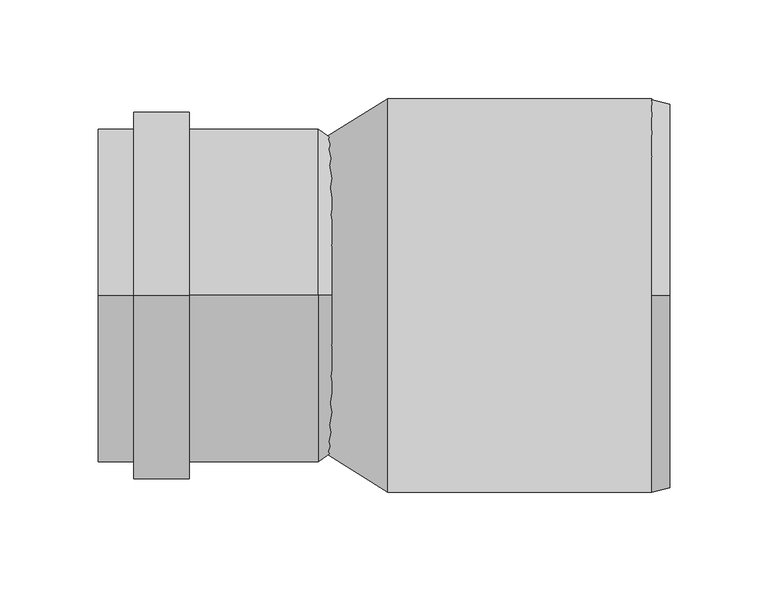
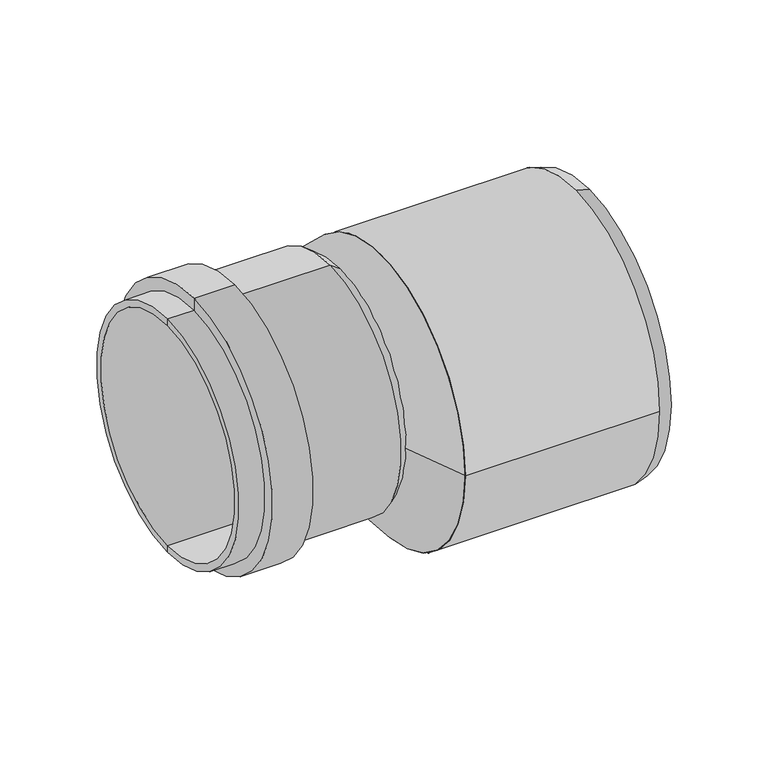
"""IFC4 building model written with IfcOpenShell, lengths in millimetres: pipe fitting geometry, OSMA_KG2000_PPKGR : Redukce nesouosá dlouhá."""

from ifc_helpers import new_model, si_unit, frame, origin, place, context, project, spatial, polyline, circle_curve, source, transform, mapped, element, save
from ifc_brep_helpers import plane_surface, cylinder_surface, revolved_surface, spline_surface, advanced_brep


def pipe_fitting_3f897d09(model_context):
    return source(origin(), model_context, "Body", "AdvancedBrep", [
        advanced_brep(
        [(-3.5, 0.0, 80.0), (-3.5, 0.0, -80.0), (-115.0, 0.0, -80.0), (-115.0, 0.0, 80.0), (-69.0, 0.0, 84.9), (-69.0, 0.0, -84.9), (-3.5, 0.0, -84.9), (-3.5, 0.0, 84.9), (-69.0, 0.0, -93.5), (-69.0, 0.0, 93.5), (-97.0, 0.0, -93.5), (-97.0, 0.0, 93.5), (-97.0, 0.0, -84.9), (-97.0, 0.0, 84.9), (-115.0, 0.0, -84.9), (-115.0, 0.0, 84.9), (3.5, 0.0, 75.1), (3.5, 0.0, -75.1), (3.5, 0.0, 80.0), (3.5, 0.0, -80.0)],
        [
            (0, 1, circle_curve(frame((-3.5, 0.0, 0.0), z_axis=(1.0, 0.0, 0.0), x_axis=(0.0, 0.0, -1.0)), 80.0)),
            (1, 2),
            (2, 3, circle_curve(frame((-115.0, 0.0, 0.0), z_axis=(-1.0, 0.0, 0.0), x_axis=(0.0, 0.0, -1.0)), 80.0)),
            (3, 0),
            (1, 0, circle_curve(frame((-3.5, 0.0, 0.0), z_axis=(1.0, 0.0, 0.0), x_axis=(0.0, 0.0, -1.0)), 80.0)),
            (3, 2, circle_curve(frame((-115.0, 0.0, 0.0), z_axis=(-1.0, 0.0, 0.0), x_axis=(0.0, 0.0, -1.0)), 80.0)),
            (4, 5, circle_curve(frame((-69.0, 0.0, 0.0), z_axis=(1.0, 0.0, 0.0), x_axis=(0.0, 0.0, -1.0)), 84.9)),
            (5, 6),
            (6, 7, circle_curve(frame((-3.5, 0.0, 0.0), z_axis=(-1.0, 0.0, 0.0), x_axis=(0.0, 0.0, -1.0)), 84.9)),
            (7, 4),
            (8, 9, circle_curve(frame((-69.0, 0.0, 0.0), z_axis=(1.0, 0.0, 0.0), x_axis=(0.0, 0.0, -1.0)), 93.5)),
            (9, 4),
            (4, 5, circle_curve(frame((-69.0, 0.0, 0.0), z_axis=(-1.0, 0.0, 0.0), x_axis=(0.0, 0.0, -1.0)), 84.9)),
            (5, 8),
            (10, 11, circle_curve(frame((-97.0, 0.0, 0.0), z_axis=(1.0, 0.0, 0.0), x_axis=(0.0, 0.0, -1.0)), 93.5)),
            (11, 9),
            (8, 10),
            (12, 13, circle_curve(frame((-97.0, 0.0, 0.0), z_axis=(1.0, 0.0, 0.0), x_axis=(0.0, 0.0, -1.0)), 84.9)),
            (13, 11),
            (10, 12),
            (14, 15, circle_curve(frame((-115.0, 0.0, 0.0), z_axis=(1.0, 0.0, 0.0), x_axis=(0.0, 0.0, -1.0)), 84.9)),
            (15, 13),
            (12, 14),
            (16, 17, circle_curve(frame((3.5, 0.0, 0.0), z_axis=(1.0, 0.0, 0.0), x_axis=(0.0, 0.0, -1.0)), 75.1)),
            (17, 1),
            (0, 16),
            (17, 16, circle_curve(frame((3.5, 0.0, 0.0), z_axis=(1.0, 0.0, 0.0), x_axis=(0.0, 0.0, -1.0)), 75.1)),
            (18, 19, circle_curve(frame((3.5, 0.0, 0.0), z_axis=(1.0, 0.0, 0.0), x_axis=(0.0, 0.0, -1.0)), 80.0)),
            (19, 17),
            (16, 18),
            (19, 18, circle_curve(frame((3.5, 0.0, 0.0), z_axis=(1.0, 0.0, 0.0), x_axis=(0.0, 0.0, -1.0)), 80.0)),
            (6, 19),
            (18, 7),
            (6, 7, circle_curve(frame((-3.5, 0.0, 0.0), z_axis=(1.0, 0.0, 0.0), x_axis=(0.0, 0.0, -1.0)), 84.9)),
            (9, 8, circle_curve(frame((-69.0, 0.0, 0.0), z_axis=(1.0, 0.0, 0.0), x_axis=(0.0, 0.0, -1.0)), 93.5)),
            (11, 10, circle_curve(frame((-97.0, 0.0, 0.0), z_axis=(1.0, 0.0, 0.0), x_axis=(0.0, 0.0, -1.0)), 93.5)),
            (13, 12, circle_curve(frame((-97.0, 0.0, 0.0), z_axis=(1.0, 0.0, 0.0), x_axis=(0.0, 0.0, -1.0)), 84.9)),
            (15, 14, circle_curve(frame((-115.0, 0.0, 0.0), z_axis=(1.0, 0.0, 0.0), x_axis=(0.0, 0.0, -1.0)), 84.9)),
            (2, 14),
            (15, 3),
        ],
        [
            revolved_surface(polyline([(-115.0, 0.0, -80.0), (-3.5, 0.0, -80.0)]), (-2784.4742198, 0.0, 0.0), (-1.0, 0.0, 0.0)),
            cylinder_surface(frame((-2784.4742198, 0.0, 0.0), z_axis=(-1.0, 0.0, 0.0), x_axis=(0.0, 0.0, -1.0)), 84.9),
            plane_surface(frame((-69.0, 0.0, 0.0), z_axis=(1.0, 0.0, 0.0), x_axis=(0.0, 0.0, -1.0))),
            cylinder_surface(frame((-2784.4742198, 0.0, 0.0), z_axis=(-1.0, 0.0, 0.0), x_axis=(0.0, 0.0, -1.0)), 93.5),
            plane_surface(frame((-97.0, 0.0, 0.0), z_axis=(-1.0, 0.0, 0.0), x_axis=(0.0, 0.0, -1.0))),
            revolved_surface(polyline([(-3.5, 0.0, -80.0), (3.5, 0.0, -75.1)]), (-2784.4742198, 0.0, 0.0), (-1.0, 0.0, 0.0)),
            plane_surface(frame((3.5, 0.0, 0.0), z_axis=(1.0, 0.0, 0.0), x_axis=(0.0, 0.0, -1.0))),
            revolved_surface(polyline([(3.5, 0.0, -80.0), (-3.5, 0.0, -84.9)]), (-2784.4742198, 0.0, 0.0), (-1.0, 0.0, 0.0)),
            plane_surface(frame((-115.0, 0.0, 0.0), z_axis=(-1.0, 0.0, 0.0), x_axis=(0.0, 0.0, -1.0))),
        ],
        [
            (0, [[1, 2, 3, 4]]),
            (0, [[5, -4, 6, -2]]),
            (1, [[7, 8, 9, 10]]),
            (2, [[11, 12, 13, 14]]),
            (3, [[15, 16, -11, 17]]),
            (4, [[18, 19, -15, 20]]),
            (1, [[21, 22, -18, 23]]),
            (5, [[24, 25, -1, 26]]),
            (5, [[27, -26, -5, -25]]),
            (6, [[28, 29, -24, 30]]),
            (6, [[31, -30, -27, -29]]),
            (7, [[-9, 32, -28, 33]]),
            (7, [[34, -33, -31, -32]]),
            (1, [[-13, -10, -34, -8]]),
            (2, [[35, -14, -7, -12]]),
            (3, [[36, -17, -35, -16]]),
            (4, [[37, -20, -36, -19]]),
            (1, [[38, -23, -37, -22]]),
            (8, [[-3, 39, -38, 40]]),
            (8, [[-6, -40, -21, -39]]),
        ],
    ),
        advanced_brep(
        [(175.0, 0.0, -117.5884573), (175.0, 0.0, 77.5884573), (175.0, 0.0, 73.8), (175.0, 0.0, -113.8), (166.0, 0.0, -120.0), (166.0, 100.0, -20.0), (166.0, 0.0, 80.0), (166.0, -100.0, -20.0), (166.0, 0.0, 73.8), (166.0, 0.0, -113.8), (32.0, 100.0, -20.0), (32.0, -100.0, -20.0)],
        [
            (0, 1, circle_curve(frame((175.0, 0.0, -20.0), z_axis=(1.0, 0.0, 0.0), x_axis=(0.0, 0.0, 1.0)), 97.5884573)),
            (1, 2),
            (2, 3, circle_curve(frame((175.0, 0.0, -20.0), z_axis=(-1.0, 0.0, 0.0), x_axis=(0.0, 0.0, 1.0)), 93.8)),
            (3, 0),
            (1, 0, circle_curve(frame((175.0, 0.0, -20.0), z_axis=(1.0, 0.0, 0.0), x_axis=(0.0, 0.0, 1.0)), 97.5884573)),
            (3, 2, circle_curve(frame((175.0, 0.0, -20.0), z_axis=(-1.0, 0.0, 0.0), x_axis=(0.0, 0.0, 1.0)), 93.8)),
            (0, 4),
            (4, 5, circle_curve(frame((166.0, 0.0, -20.0), z_axis=(1.0, 0.0, 0.0), x_axis=(0.0, 0.0, 1.0)), 100.0)),
            (5, 6, circle_curve(frame((166.0, 0.0, -20.0), z_axis=(1.0, 0.0, 0.0), x_axis=(0.0, 0.0, 1.0)), 100.0)),
            (6, 1),
            (6, 7, circle_curve(frame((166.0, 0.0, -20.0), z_axis=(1.0, 0.0, 0.0), x_axis=(0.0, 0.0, 1.0)), 100.0)),
            (7, 4, circle_curve(frame((166.0, 0.0, -20.0), z_axis=(1.0, 0.0, 0.0), x_axis=(0.0, 0.0, 1.0)), 100.0)),
            (2, 8),
            (8, 9, circle_curve(frame((166.0, 0.0, -20.0), z_axis=(-1.0, 0.0, 0.0), x_axis=(0.0, 0.0, 1.0)), 93.8)),
            (9, 3),
            (9, 8, circle_curve(frame((166.0, 0.0, -20.0), z_axis=(-1.0, 0.0, 0.0), x_axis=(0.0, 0.0, 1.0)), 93.8)),
            (10, 11, circle_curve(frame((32.0, 0.0, -20.0), z_axis=(-1.0, 0.0, 0.0), x_axis=(0.0, -1.0, 0.0)), 100.0)),
            (11, 10, circle_curve(frame((32.0, 0.0, -20.0), z_axis=(-1.0, 0.0, 0.0), x_axis=(0.0, -1.0, 0.0)), 100.0)),
            (11, 7),
            (5, 10),
        ],
        [
            plane_surface(frame((175.0, 0.0, -20.0), z_axis=(1.0, 0.0, 0.0), x_axis=(0.0, 0.0, 1.0))),
            revolved_surface(polyline([(175.0, 0.0, 77.5884573), (166.0, 0.0, 80.0)]), (50.4287569, 0.0, -20.0), (-1.0, 0.0, 0.0)),
            revolved_surface(polyline([(166.0, 0.0, 73.8), (175.0, 0.0, 73.8)]), (50.4287569, 0.0, -20.0), (-1.0, 0.0, 0.0)),
            plane_surface(frame((166.0, 0.0, 0.0), z_axis=(1.0, 0.0, 0.0), x_axis=(0.0, 0.0, 1.0))),
            plane_surface(frame((32.0, 0.0, 0.0), z_axis=(-1.0, 0.0, 0.0), x_axis=(0.0, 0.0, 1.0))),
            cylinder_surface(frame((166.0, 0.0, -20.0), z_axis=(1.0, 0.0, 0.0), x_axis=(0.0, -1.0, 0.0)), 100.0),
        ],
        [
            (0, [[1, 2, 3, 4]]),
            (0, [[-2, 5, -4, 6]]),
            (1, [[-1, 7, 8, 9, 10]]),
            (1, [[-5, -10, 11, 12, -7]]),
            (2, [[-3, 13, 14, 15]]),
            (2, [[-6, -15, 16, -13]]),
            (3, [[-14, -16]]),
            (4, [[17, 18]]),
            (5, [[-18, 19, -11, -9, 20]]),
            (5, [[-17, -20, -8, -12, -19]]),
        ],
    ),
        advanced_brep(
        [(0.0, 80.0, 0.0), (0.0, -80.0, 0.0), (32.0, 100.0, -20.0), (32.0, -100.0, -20.0)],
        [
            (0, 1, circle_curve(frame((0.0, 0.0, 0.0), z_axis=(-1.0, 0.0, 0.0), x_axis=(0.0, -1.0, 0.0)), 80.0)),
            (1, 0, circle_curve(frame((0.0, 0.0, 0.0), z_axis=(-1.0, 0.0, 0.0), x_axis=(0.0, -1.0, 0.0)), 80.0)),
            (2, 3, circle_curve(frame((32.0, 0.0, -20.0), z_axis=(1.0, 0.0, 0.0), x_axis=(0.0, -1.0, 0.0)), 100.0)),
            (3, 2, circle_curve(frame((32.0, 0.0, -20.0), z_axis=(1.0, 0.0, 0.0), x_axis=(0.0, -1.0, 0.0)), 100.0)),
            (3, 1),
            (0, 2),
        ],
        [
            plane_surface(frame((0.0, 0.0, 0.0), z_axis=(-1.0, 0.0, 0.0), x_axis=(0.0, 0.0, -1.0))),
            plane_surface(frame((32.0, 0.0, -20.0), z_axis=(1.0, 0.0, 0.0), x_axis=(0.0, 0.0, -1.0))),
            spline_surface(2, 1, [[(32.0, 100.0, -20.0), (0.0, 80.0, 0.0)], [(32.0, 100.0, -120.0), (0.0, 80.0, -80.0)], [(32.0, 0.0, -120.0), (0.0, 0.0, -80.0)], [(32.0, -100.0, -120.0), (0.0, -80.0, -80.0)], [(32.0, -100.0, -20.0), (0.0, -80.0, 0.0)]], [3, 2, 3], [2, 2], [0.0, 1.0, 2.0], [0.0, 1.0], weights=[[1.0, 1.0], [0.7071067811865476, 0.7071067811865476], [1.0, 1.0], [0.7071067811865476, 0.7071067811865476], [1.0, 1.0]]),
            spline_surface(2, 1, [[(32.0, -100.0, -20.0), (0.0, -80.0, 0.0)], [(32.0, -100.0, 80.0), (0.0, -80.0, 80.0)], [(32.0, 0.0, 80.0), (0.0, 0.0, 80.0)], [(32.0, 100.0, 80.0), (0.0, 80.0, 80.0)], [(32.0, 100.0, -20.0), (0.0, 80.0, 0.0)]], [3, 2, 3], [2, 2], [0.0, 1.0, 2.0], [0.0, 1.0], weights=[[1.0, 1.0], [0.7071067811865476, 0.7071067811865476], [1.0, 1.0], [0.7071067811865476, 0.7071067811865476], [1.0, 1.0]]),
        ],
        [
            (0, [[1, 2]]),
            (1, [[3, 4]]),
            (2, [[-4, 5, -1, 6]]),
            (3, [[-3, -6, -2, -5]]),
        ],
    ),
    ])


if __name__ == "__main__":
    model = new_model("IFC4")
    model_context = context("Model", 3, world=origin())
    ifc_project = project(units=[si_unit("LENGTHUNIT", "METRE", prefix="MILLI")], contexts=[model_context])
    site = spatial("IfcSite", under=ifc_project)
    building = spatial("IfcBuilding", under=site)
    placement = place(None, origin())
    pipe_fitting_shape = pipe_fitting_3f897d09(model_context)
    element("IfcPipeFitting", 1, ObjectType="OSMA_KG2000_PPKGR : Redukce nesouosá dlouhá", at=placement, inside=building, context=model_context, shape_type="MappedRepresentation", body=[
        mapped(pipe_fitting_shape, transform((0.0, 0.0, 0.0), x_axis=(1.0, 0.0, 0.0), y_axis=(0.0, 1.0, 0.0), z_axis=(0.0, 0.0, 1.0))),
    ])
    save(model, "model.ifc")
